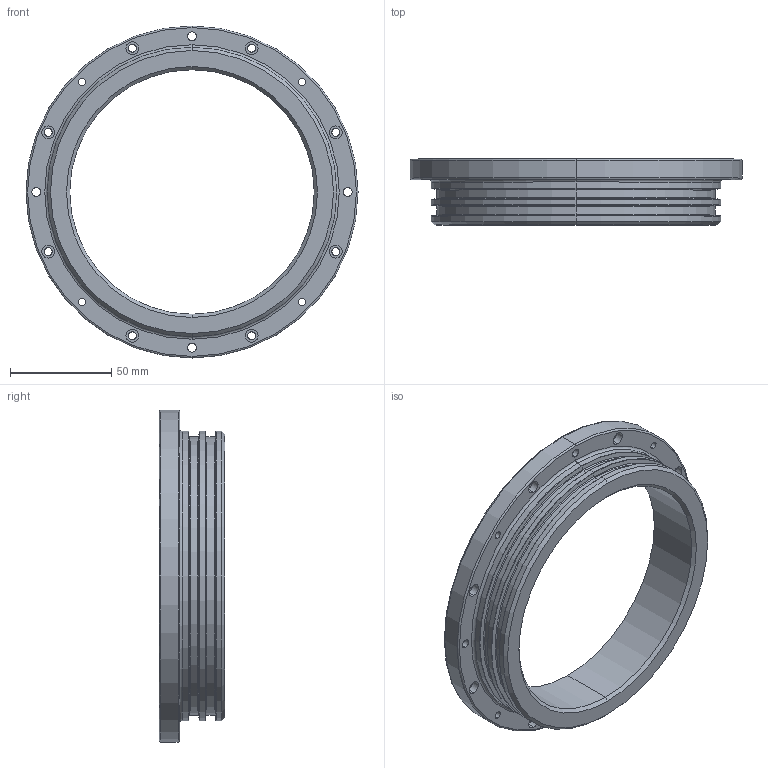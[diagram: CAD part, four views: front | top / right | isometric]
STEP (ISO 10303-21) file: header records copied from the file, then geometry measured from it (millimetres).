
FILE_DESCRIPTION (( 'STEP AP203' ), '1' );
FILE_NAME ('100222006 Housing B Viewport Endcap_A.STEP', '2023-09-14T17:56:24', ( '' ), ( '' ), 'SwSTEP 2.0', 'SolidWorks 2023', '' );
FILE_SCHEMA (( 'CONFIG_CONTROL_DESIGN' ));
Length unit declared in the file: inch
Products named in the file (1): 100222006 Housing B Viewport Endcap_A
Bounding box: 163.83 x 32.51 x 163.83 mm (x, y, z)
Volume: 167150.5 mm3; surface area: 51361.8 mm2
Topology: 1 solids, 1 shells, 117 faces, 266 edges, 162 vertices
Faces by surface type: cylinder 66, torus 26, plane 13, cone 12
Entity records: 3487 total; most frequent: DIRECTION 690, CARTESIAN_POINT 546, ORIENTED_EDGE 532, AXIS2_PLACEMENT_3D 306, EDGE_CURVE 266, CIRCLE 188, EDGE_LOOP 162, VERTEX_POINT 162
